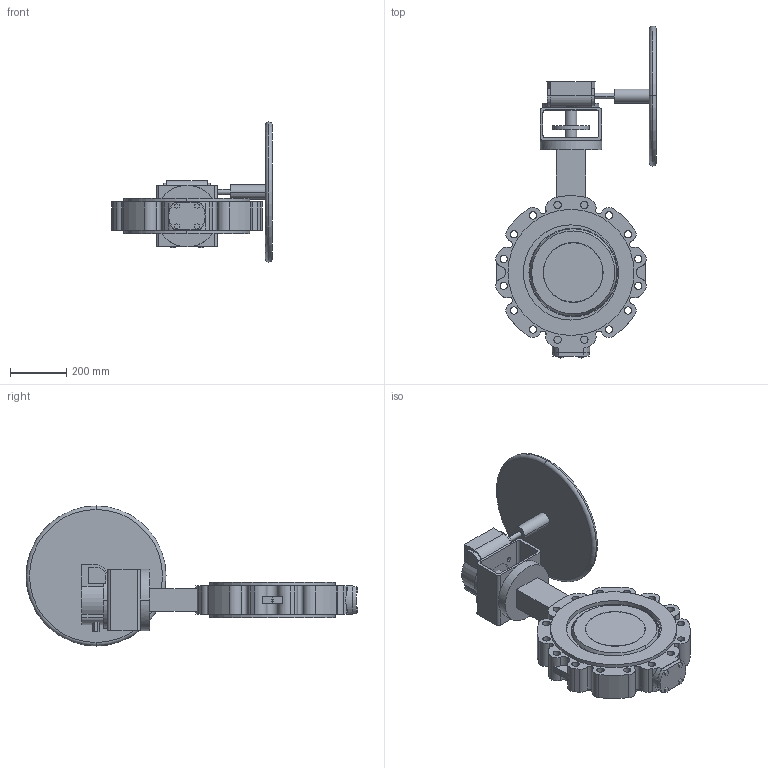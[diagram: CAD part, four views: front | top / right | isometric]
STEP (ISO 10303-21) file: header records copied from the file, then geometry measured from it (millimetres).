
FILE_DESCRIPTION( ( '' ), '1' );
FILE_NAME( 'F:/DE-SHS/TB/OR/04-Sonstiges/daten/Excel/mneugeba/018_ZETRIX-PN25_Getriebe-Rotork/c000006446.stp', '2016-09-19T06:35:16', ( '' ), ( '' ), ' ', ' ', ' ' );
FILE_SCHEMA( ( 'CONFIG_CONTROL_DESIGN' ) );
Length unit declared in the file: millimetre
Products named in the file (2): 1; 2
Bounding box: 574.04 x 1185.4 x 500 mm (x, y, z)
Volume: 31105903.2 mm3; surface area: 1997124.5 mm2
Topology: 2 solids, 2 shells, 350 faces, 933 edges, 621 vertices
Faces by surface type: cylinder 179, plane 159, sphere 4, cone 4, torus 4
Entity records: 11914 total; most frequent: CARTESIAN_POINT 2649, DIRECTION 2014, ORIENTED_EDGE 1866, EDGE_CURVE 933, AXIS2_PLACEMENT_3D 760, VERTEX_POINT 621, LINE 494, VECTOR 494
